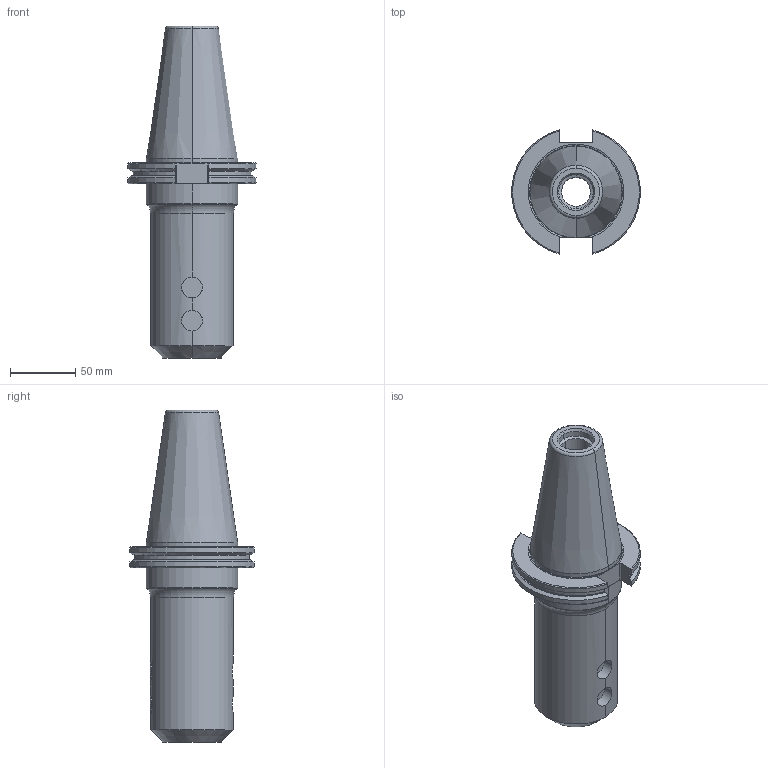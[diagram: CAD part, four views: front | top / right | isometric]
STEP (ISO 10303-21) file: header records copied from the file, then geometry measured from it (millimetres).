
FILE_DESCRIPTION (( 'STEP AP214' ), '1' );
FILE_NAME ('RC5EM15006000.STEP', '2019-02-08T14:40:38', ( '' ), ( '' ), 'SwSTEP 2.0', 'SolidWorks 2019', '' );
FILE_SCHEMA (( 'AUTOMOTIVE_DESIGN' ));
Length unit declared in the file: inch
Products named in the file (1): RC5EM15006000
Bounding box: 98.05 x 94.95 x 254 mm (x, y, z)
Volume: 604998.5 mm3; surface area: 85450 mm2
Topology: 1 solids, 1 shells, 153 faces, 394 edges, 241 vertices
Faces by surface type: plane 50, cylinder 46, cone 41, torus 16
Entity records: 5497 total; most frequent: CARTESIAN_POINT 1713, ORIENTED_EDGE 776, DIRECTION 775, EDGE_CURVE 388, AXIS2_PLACEMENT_3D 305, VERTEX_POINT 241, LINE 165, VECTOR 165
